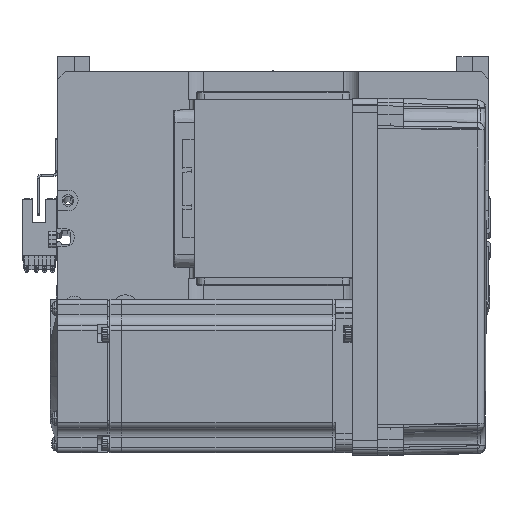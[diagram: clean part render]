
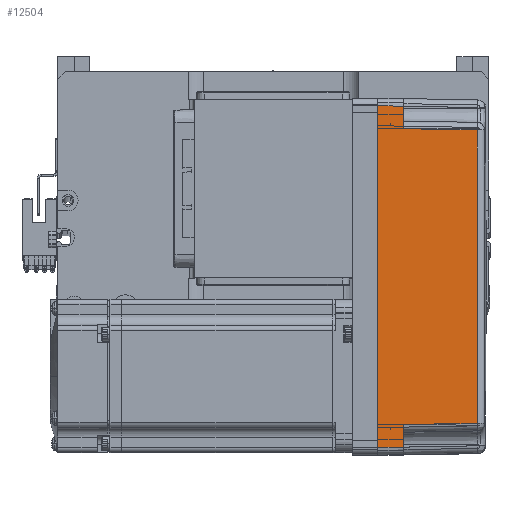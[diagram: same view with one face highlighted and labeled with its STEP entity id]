
A CAD part, top view. The second image highlights one B-rep face of the part: STEP entity #12504.
In plain terms, the highlighted planar face has unit normal (0.018, 0, 1) as drawn and (0, 1, 0.017) by its records, which use the part's own axes.
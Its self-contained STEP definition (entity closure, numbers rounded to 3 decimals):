
#126 = ORIENTED_EDGE ( 'NONE', *, *, #8919, .F. ) ;
#128 = VERTEX_POINT ( 'NONE', #5530 ) ;
#346 = DIRECTION ( 'NONE',  ( 1., 0., 0. ) ) ;
#1838 = VERTEX_POINT ( 'NONE', #49934 ) ;
#1959 = CARTESIAN_POINT ( 'NONE',  ( 57.495, 35.32, 38.985 ) ) ;
#3874 = EDGE_CURVE ( 'NONE', #48748, #21293, #5922, .T. ) ;
#5505 = CARTESIAN_POINT ( 'NONE',  ( 67., 36., 0. ) ) ;
#5530 = CARTESIAN_POINT ( 'NONE',  ( -67., 36., 0. ) ) ;
#5922 = LINE ( 'NONE', #35296, #63705 ) ;
#6677 = EDGE_CURVE ( 'NONE', #23783, #35723, #59449, .T. ) ;
#7129 = CARTESIAN_POINT ( 'NONE',  ( -58., 35.825, 10. ) ) ;
#8919 = EDGE_CURVE ( 'NONE', #128, #31053, #29966, .T. ) ;
#9982 = DIRECTION ( 'NONE',  ( 0., 1., 0.017 ) ) ;
#10194 = AXIS2_PLACEMENT_3D ( 'NONE', #15355, #9982, #54602 ) ;
#11354 = CARTESIAN_POINT ( 'NONE',  ( 57.495, 35.32, 38.985 ) ) ;
#11562 = CARTESIAN_POINT ( 'NONE',  ( 67.001, 36.001, -0.052 ) ) ;
#11657 = CARTESIAN_POINT ( 'NONE',  ( 19.165, 35.316, 39.181 ) ) ;
#11802 = LINE ( 'NONE', #11562, #26541 ) ;
#12088 = CARTESIAN_POINT ( 'NONE',  ( -57.495, 35.32, 38.985 ) ) ;
#12504 = ADVANCED_FACE ( 'NONE', ( #53156 ), #34560, .T. ) ;
#13263 = LINE ( 'NONE', #44543, #62597 ) ;
#14000 = VERTEX_POINT ( 'NONE', #23201 ) ;
#14472 = ORIENTED_EDGE ( 'NONE', *, *, #48986, .T. ) ;
#15355 = CARTESIAN_POINT ( 'NONE',  ( 70., 36., 0. ) ) ;
#15538 = ORIENTED_EDGE ( 'NONE', *, *, #3874, .T. ) ;
#16052 = ORIENTED_EDGE ( 'NONE', *, *, #30133, .F. ) ;
#16122 = DIRECTION ( 'NONE',  ( 1., 0., 0. ) ) ;
#17025 = CARTESIAN_POINT ( 'NONE',  ( 58., 35.825, 10. ) ) ;
#20039 = DIRECTION ( 'NONE',  ( 1., 0., 0. ) ) ;
#21293 = VERTEX_POINT ( 'NONE', #33794 ) ;
#22237 = VECTOR ( 'NONE', #346, 1000. ) ;
#23201 = CARTESIAN_POINT ( 'NONE',  ( -58., 35.825, 10. ) ) ;
#23783 = VERTEX_POINT ( 'NONE', #56072 ) ;
#25459 = DIRECTION ( 'NONE',  ( 0.017, 0.017, -1. ) ) ;
#26105 = LINE ( 'NONE', #35943, #47589 ) ;
#26541 = VECTOR ( 'NONE', #50813, 1000. ) ;
#29902 = CARTESIAN_POINT ( 'NONE',  ( 0., 36., 0. ) ) ;
#29966 = LINE ( 'NONE', #29902, #22237 ) ;
#30133 = EDGE_CURVE ( 'NONE', #31053, #21293, #11802, .T. ) ;
#31053 = VERTEX_POINT ( 'NONE', #5505 ) ;
#32583 = ORIENTED_EDGE ( 'NONE', *, *, #43114, .T. ) ;
#33794 = CARTESIAN_POINT ( 'NONE',  ( 66.826, 35.825, 10. ) ) ;
#34560 = PLANE ( 'NONE',  #10194 ) ;
#35296 = CARTESIAN_POINT ( 'NONE',  ( 70., 35.825, 10. ) ) ;
#35723 = VERTEX_POINT ( 'NONE', #11354 ) ;
#35943 = CARTESIAN_POINT ( 'NONE',  ( -67., 36., 0. ) ) ;
#36039 = VECTOR ( 'NONE', #25459, 1000. ) ;
#36673 = CARTESIAN_POINT ( 'NONE',  ( -19.165, 35.316, 39.181 ) ) ;
#36852 = ORIENTED_EDGE ( 'NONE', *, *, #6677, .T. ) ;
#39854 = CARTESIAN_POINT ( 'NONE',  ( 57.495, 35.32, 38.985 ) ) ;
#41492 = DIRECTION ( 'NONE',  ( 0.017, -0.017, 1. ) ) ;
#41523 = LINE ( 'NONE', #7129, #63894 ) ;
#43114 = EDGE_CURVE ( 'NONE', #35723, #48748, #56083, .T. ) ;
#44543 = CARTESIAN_POINT ( 'NONE',  ( 70., 35.825, 10. ) ) ;
#47089 = ORIENTED_EDGE ( 'NONE', *, *, #50733, .T. ) ;
#47204 = DIRECTION ( 'NONE',  ( 0.017, -0.017, 1. ) ) ;
#47589 = VECTOR ( 'NONE', #41492, 1000. ) ;
#48748 = VERTEX_POINT ( 'NONE', #17025 ) ;
#48986 = EDGE_CURVE ( 'NONE', #1838, #14000, #13263, .T. ) ;
#49934 = CARTESIAN_POINT ( 'NONE',  ( -66.826, 35.825, 10. ) ) ;
#50733 = EDGE_CURVE ( 'NONE', #14000, #23783, #41523, .T. ) ;
#50813 = DIRECTION ( 'NONE',  ( -0.017, -0.017, 1. ) ) ;
#51602 = EDGE_CURVE ( 'NONE', #128, #1838, #26105, .T. ) ;
#53156 = FACE_OUTER_BOUND ( 'NONE', #55483, .T. ) ;
#54602 = DIRECTION ( 'NONE',  ( 0., -0.017, 1. ) ) ;
#55483 = EDGE_LOOP ( 'NONE', ( #57459, #14472, #47089, #36852, #32583, #15538, #16052, #126 ) ) ;
#56072 = CARTESIAN_POINT ( 'NONE',  ( -57.495, 35.32, 38.985 ) ) ;
#56083 = LINE ( 'NONE', #39854, #36039 ) ;
#57459 = ORIENTED_EDGE ( 'NONE', *, *, #51602, .T. ) ;
#59449 = B_SPLINE_CURVE_WITH_KNOTS ( 'NONE', 3,
 ( #12088, #36673, #11657, #1959 ),
 .UNSPECIFIED., .F., .F.,
 ( 4, 4 ),
 ( 0., 1. ),
 .UNSPECIFIED. ) ;
#62597 = VECTOR ( 'NONE', #20039, 1000. ) ;
#63705 = VECTOR ( 'NONE', #16122, 1000. ) ;
#63894 = VECTOR ( 'NONE', #47204, 1000. ) ;
